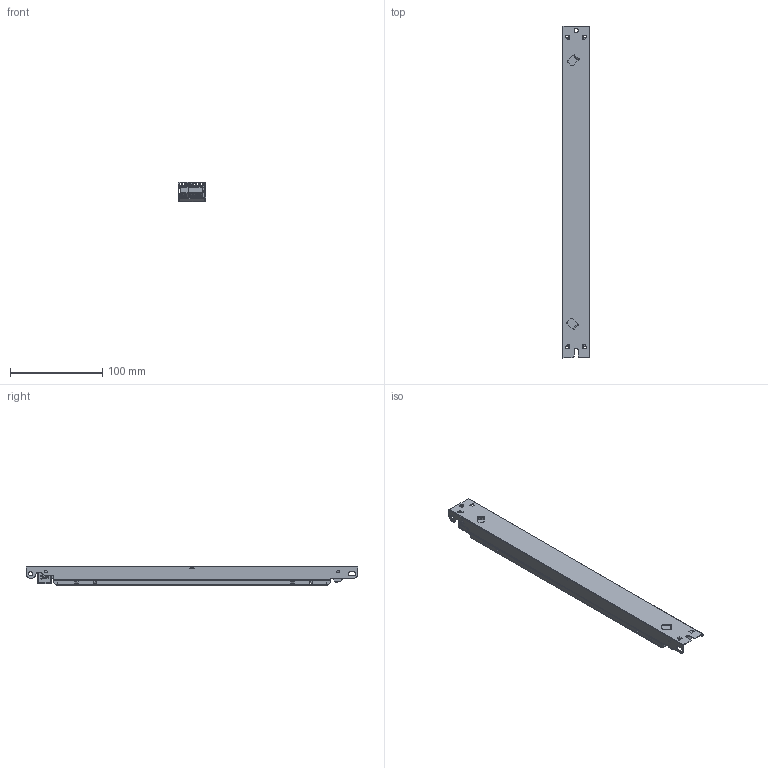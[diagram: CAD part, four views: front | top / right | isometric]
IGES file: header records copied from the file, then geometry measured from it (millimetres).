
Start section: SolidWorks IGES file using analytic representation for surfaces
Global section: file name: C:\Users\vuorinen_kari\Desktop\prj\LL50iC-DA-100-1200\LL50iC-DA-100-1200.IGS; native system: SolidWorks 2014; preprocessor: SolidWorks 2014; author: vuorinen_kari; date: 191202.123049; units: millimetre
Bounding box: 30.28 x 360 x 20.9 mm (x, y, z)
Surface area: 96999.1 mm2 (no closed solid volume)
Topology: 0 solids, 0 shells, 1412 faces, 10706 edges, 10702 vertices
Faces by surface type: bspline 974, revolution 438
